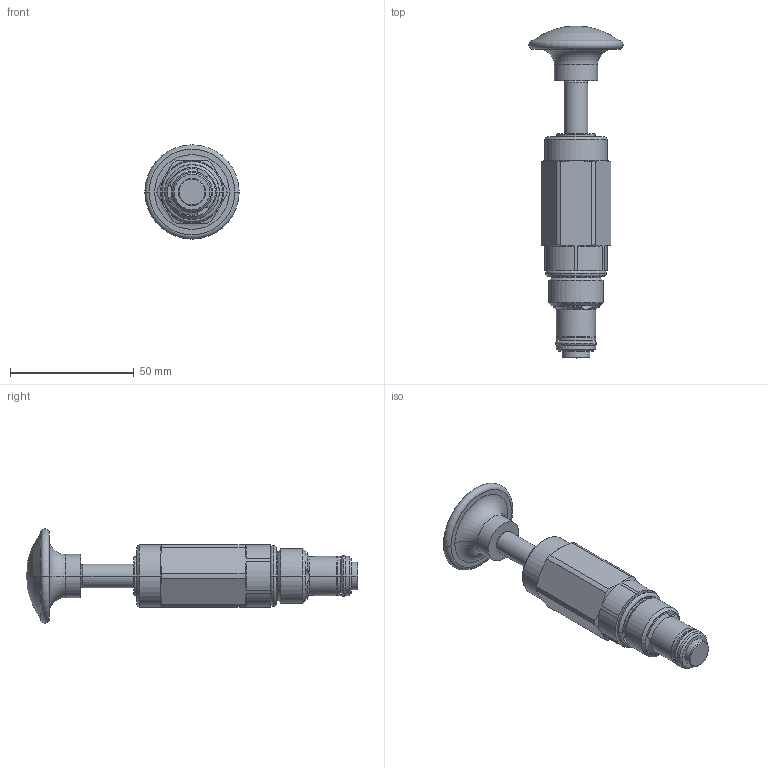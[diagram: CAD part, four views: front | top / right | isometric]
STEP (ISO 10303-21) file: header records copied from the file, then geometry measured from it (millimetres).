
FILE_DESCRIPTION((''),'2;1');
FILE_NAME('5470102_SW0001','2009-02-09T',('jcs'),(''),'PRO/ENGINEER BY PARAMETRIC TECHNOLOGY CORPORATION, 2008010','PRO/ENGINEER BY PARAMETRIC TECHNOLOGY CORPORATION, 2008010','');
FILE_SCHEMA(('CONFIG_CONTROL_DESIGN'));
Length unit declared in the file: inch
Products named in the file (1): 5470102_SW0001
Bounding box: 38.1 x 134.09 x 38.1 mm (x, y, z)
Volume: 50258.4 mm3; surface area: 12517 mm2
Topology: 3 solids, 4 shells, 137 faces, 312 edges, 183 vertices
Faces by surface type: cylinder 48, cone 37, torus 16, revolution 16, plane 15, sphere 5
Entity records: 4325 total; most frequent: CARTESIAN_POINT 1199, DIRECTION 678, ORIENTED_EDGE 620, EDGE_CURVE 310, AXIS2_PLACEMENT_3D 287, VERTEX_POINT 183, CIRCLE 166, EDGE_LOOP 145
